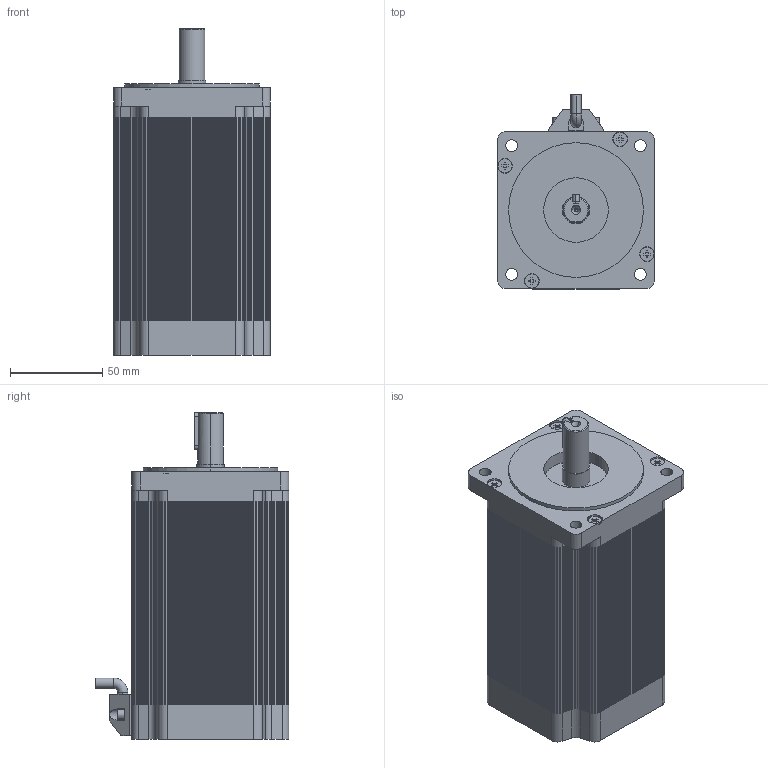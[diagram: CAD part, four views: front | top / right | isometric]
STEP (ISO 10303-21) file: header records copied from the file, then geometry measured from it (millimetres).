
FILE_DESCRIPTION (( 'STEP AP203' ), '1' );
FILE_NAME ('SMC3404.STEP', '2020-05-15T05:47:27', ( 'Windows' ), ( 'Microsoft' ), 'SwSTEP 2.0', 'SolidWorks 2016', '' );
FILE_SCHEMA (( 'CONFIG_CONTROL_DESIGN' ));
Products named in the file (1): SMC3404
Bounding box: 85 x 105 x 177 mm (x, y, z)
Volume: 957831.3 mm3; surface area: 2929644 mm2
Topology: 224 solids, 224 shells, 5991 faces, 16533 edges, 11008 vertices
Faces by surface type: plane 3221, cylinder 2747, cone 21, torus 2
Entity records: 191722 total; most frequent: DIRECTION 34003, CARTESIAN_POINT 33558, ORIENTED_EDGE 33042, EDGE_CURVE 16521, AXIS2_PLACEMENT_3D 11497, LINE 11009, VECTOR 11009, VERTEX_POINT 11008
